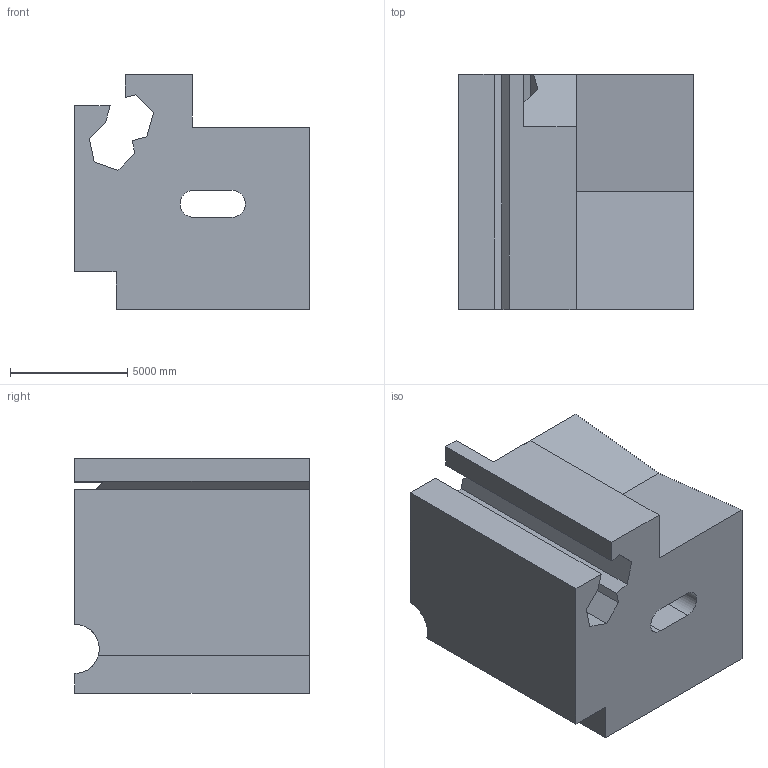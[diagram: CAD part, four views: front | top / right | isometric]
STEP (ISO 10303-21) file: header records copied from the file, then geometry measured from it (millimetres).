
FILE_DESCRIPTION (( 'STEP AP203' ), '1' );
FILE_NAME ('1759.STEP', '2022-08-26T10:35:20', ( 'user' ), ( '' ), 'SwSTEP 2.0', 'SolidWorks 2021', '' );
FILE_SCHEMA (( 'CONFIG_CONTROL_DESIGN' ));
Length unit declared in the file: centimetre
Products named in the file (1): 1759
Bounding box: 10000 x 10000 x 10000 mm (x, y, z)
Volume: 715247408947 mm3; surface area: 696496818.1 mm2
Topology: 1 solids, 1 shells, 32 faces, 89 edges, 59 vertices
Faces by surface type: plane 29, cylinder 3
Entity records: 1093 total; most frequent: CARTESIAN_POINT 181, ORIENTED_EDGE 178, DIRECTION 162, EDGE_CURVE 89, LINE 82, VECTOR 82, VERTEX_POINT 59, AXIS2_PLACEMENT_3D 40
